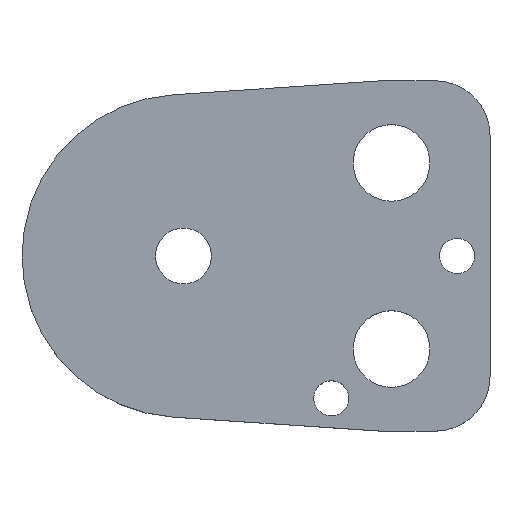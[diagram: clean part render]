
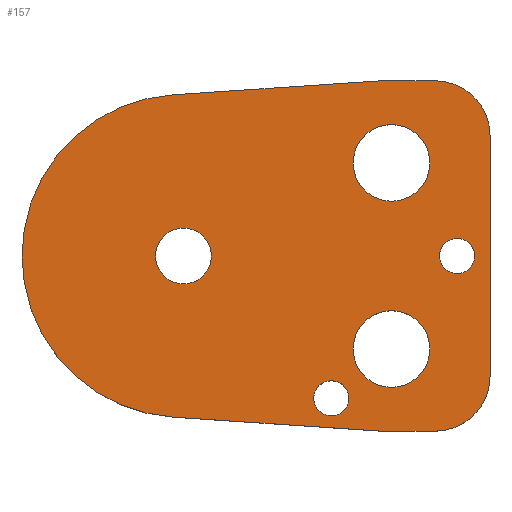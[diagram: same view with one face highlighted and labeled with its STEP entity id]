
A CAD part, top view. The second image highlights one B-rep face of the part: STEP entity #157.
In plain terms, the highlighted planar face has unit normal (0, 0, 1).
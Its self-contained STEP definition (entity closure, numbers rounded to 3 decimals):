
#103=FACE_BOUND('',#207,.T.);
#104=FACE_BOUND('',#208,.T.);
#105=FACE_BOUND('',#209,.T.);
#106=FACE_BOUND('',#210,.T.);
#107=FACE_BOUND('',#211,.T.);
#108=FACE_BOUND('',#212,.T.);
#122=CIRCLE('',#480,10.);
#124=CIRCLE('',#484,10.);
#127=CIRCLE('',#490,29.5);
#138=CIRCLE('',#503,3.2);
#139=CIRCLE('',#504,3.2);
#140=CIRCLE('',#505,7.);
#141=CIRCLE('',#506,7.);
#142=CIRCLE('',#507,7.);
#143=CIRCLE('',#508,7.);
#144=CIRCLE('',#509,3.2);
#145=CIRCLE('',#510,3.2);
#146=CIRCLE('',#511,5.1);
#147=CIRCLE('',#512,5.1);
#157=ADVANCED_FACE('',(#103,#104,#105,#106,#107,#108),#174,.T.);
#174=PLANE('',#513);
#207=EDGE_LOOP('',(#273,#274,#275,#276,#277,#278,#279,#280));
#208=EDGE_LOOP('',(#281,#282));
#209=EDGE_LOOP('',(#283,#284));
#210=EDGE_LOOP('',(#285,#286));
#211=EDGE_LOOP('',(#287,#288));
#212=EDGE_LOOP('',(#289,#290));
#273=ORIENTED_EDGE('',*,*,#368,.T.);
#274=ORIENTED_EDGE('',*,*,#372,.T.);
#275=ORIENTED_EDGE('',*,*,#375,.T.);
#276=ORIENTED_EDGE('',*,*,#378,.T.);
#277=ORIENTED_EDGE('',*,*,#381,.T.);
#278=ORIENTED_EDGE('',*,*,#384,.T.);
#279=ORIENTED_EDGE('',*,*,#387,.T.);
#280=ORIENTED_EDGE('',*,*,#390,.T.);
#281=ORIENTED_EDGE('',*,*,#401,.T.);
#282=ORIENTED_EDGE('',*,*,#402,.T.);
#283=ORIENTED_EDGE('',*,*,#403,.T.);
#284=ORIENTED_EDGE('',*,*,#404,.T.);
#285=ORIENTED_EDGE('',*,*,#405,.T.);
#286=ORIENTED_EDGE('',*,*,#406,.T.);
#287=ORIENTED_EDGE('',*,*,#407,.T.);
#288=ORIENTED_EDGE('',*,*,#408,.T.);
#289=ORIENTED_EDGE('',*,*,#409,.T.);
#290=ORIENTED_EDGE('',*,*,#410,.T.);
#332=VERTEX_POINT('',#649);
#333=VERTEX_POINT('',#651);
#336=VERTEX_POINT('',#658);
#338=VERTEX_POINT('',#664);
#340=VERTEX_POINT('',#670);
#342=VERTEX_POINT('',#676);
#344=VERTEX_POINT('',#682);
#346=VERTEX_POINT('',#688);
#357=VERTEX_POINT('',#717);
#358=VERTEX_POINT('',#718);
#359=VERTEX_POINT('',#721);
#360=VERTEX_POINT('',#722);
#361=VERTEX_POINT('',#725);
#362=VERTEX_POINT('',#726);
#363=VERTEX_POINT('',#729);
#364=VERTEX_POINT('',#730);
#365=VERTEX_POINT('',#733);
#366=VERTEX_POINT('',#734);
#368=EDGE_CURVE('',#333,#332,#422,.T.);
#372=EDGE_CURVE('',#332,#336,#426,.T.);
#375=EDGE_CURVE('',#336,#338,#122,.T.);
#378=EDGE_CURVE('',#338,#340,#430,.T.);
#381=EDGE_CURVE('',#340,#342,#124,.T.);
#384=EDGE_CURVE('',#342,#344,#434,.T.);
#387=EDGE_CURVE('',#344,#346,#437,.T.);
#390=EDGE_CURVE('',#346,#333,#127,.T.);
#401=EDGE_CURVE('',#357,#358,#138,.T.);
#402=EDGE_CURVE('',#358,#357,#139,.T.);
#403=EDGE_CURVE('',#359,#360,#140,.T.);
#404=EDGE_CURVE('',#360,#359,#141,.T.);
#405=EDGE_CURVE('',#361,#362,#142,.T.);
#406=EDGE_CURVE('',#362,#361,#143,.T.);
#407=EDGE_CURVE('',#363,#364,#144,.T.);
#408=EDGE_CURVE('',#364,#363,#145,.T.);
#409=EDGE_CURVE('',#365,#366,#146,.T.);
#410=EDGE_CURVE('',#366,#365,#147,.T.);
#422=LINE('',#650,#450);
#426=LINE('',#659,#454);
#430=LINE('',#671,#458);
#434=LINE('',#683,#462);
#437=LINE('',#689,#465);
#450=VECTOR('',#527,1.);
#454=VECTOR('',#533,1.);
#458=VECTOR('',#545,1.);
#462=VECTOR('',#557,1.);
#465=VECTOR('',#562,1.);
#480=AXIS2_PLACEMENT_3D('',#665,#538,#539);
#484=AXIS2_PLACEMENT_3D('',#677,#550,#551);
#490=AXIS2_PLACEMENT_3D('',#693,#568,#569);
#503=AXIS2_PLACEMENT_3D('',#716,#594,#595);
#504=AXIS2_PLACEMENT_3D('',#719,#596,#597);
#505=AXIS2_PLACEMENT_3D('',#720,#598,#599);
#506=AXIS2_PLACEMENT_3D('',#723,#600,#601);
#507=AXIS2_PLACEMENT_3D('',#724,#602,#603);
#508=AXIS2_PLACEMENT_3D('',#727,#604,#605);
#509=AXIS2_PLACEMENT_3D('',#728,#606,#607);
#510=AXIS2_PLACEMENT_3D('',#731,#608,#609);
#511=AXIS2_PLACEMENT_3D('',#732,#610,#611);
#512=AXIS2_PLACEMENT_3D('',#735,#612,#613);
#513=AXIS2_PLACEMENT_3D('',#736,#614,#615);
#527=DIRECTION('',(0.998,-0.067,0.));
#533=DIRECTION('',(1.,0.,0.));
#538=DIRECTION('',(0.,0.,1.));
#539=DIRECTION('',(-0.707,0.707,0.));
#545=DIRECTION('',(0.,1.,0.));
#550=DIRECTION('',(0.,0.,1.));
#551=DIRECTION('',(-0.707,-0.707,0.));
#557=DIRECTION('',(-1.,0.,0.));
#562=DIRECTION('',(-0.998,-0.067,0.));
#568=DIRECTION('',(0.,0.,1.));
#569=DIRECTION('',(1.,0.,0.));
#594=DIRECTION('',(0.,0.,-1.));
#595=DIRECTION('',(-1.,0.,0.));
#596=DIRECTION('',(0.,0.,-1.));
#597=DIRECTION('',(1.,0.,0.));
#598=DIRECTION('',(0.,0.,-1.));
#599=DIRECTION('',(-1.,0.,0.));
#600=DIRECTION('',(0.,0.,-1.));
#601=DIRECTION('',(1.,0.,0.));
#602=DIRECTION('',(0.,0.,-1.));
#603=DIRECTION('',(-1.,0.,0.));
#604=DIRECTION('',(0.,0.,-1.));
#605=DIRECTION('',(1.,0.,0.));
#606=DIRECTION('',(0.,0.,-1.));
#607=DIRECTION('',(-1.,0.,0.));
#608=DIRECTION('',(0.,0.,-1.));
#609=DIRECTION('',(1.,0.,0.));
#610=DIRECTION('',(0.,0.,-1.));
#611=DIRECTION('',(-1.,0.,0.));
#612=DIRECTION('',(0.,0.,-1.));
#613=DIRECTION('',(1.,0.,0.));
#614=DIRECTION('',(0.,0.,1.));
#615=DIRECTION('',(0.998,-0.067,0.));
#649=CARTESIAN_POINT('',(36.,-32.,9.));
#650=CARTESIAN_POINT('',(36.,-32.,9.));
#651=CARTESIAN_POINT('',(-1.989,-29.433,9.));
#658=CARTESIAN_POINT('',(46.,-32.,9.));
#659=CARTESIAN_POINT('',(36.,-32.,9.));
#664=CARTESIAN_POINT('',(56.,-22.,9.));
#665=CARTESIAN_POINT('',(46.,-22.,9.));
#670=CARTESIAN_POINT('',(56.,22.,9.));
#671=CARTESIAN_POINT('',(56.,22.,9.));
#676=CARTESIAN_POINT('',(46.,32.,9.));
#677=CARTESIAN_POINT('',(46.,22.,9.));
#682=CARTESIAN_POINT('',(36.,32.,9.));
#683=CARTESIAN_POINT('',(36.,32.,9.));
#688=CARTESIAN_POINT('',(-1.989,29.433,9.));
#689=CARTESIAN_POINT('',(36.,32.,9.));
#693=CARTESIAN_POINT('',(0.,0.,9.));
#716=CARTESIAN_POINT('',(50.,0.,9.));
#717=CARTESIAN_POINT('',(50.,3.2,9.));
#718=CARTESIAN_POINT('',(50.,-3.2,9.));
#719=CARTESIAN_POINT('',(50.,0.,9.));
#720=CARTESIAN_POINT('',(38.,17.,9.));
#721=CARTESIAN_POINT('',(38.,24.,9.));
#722=CARTESIAN_POINT('',(38.,10.,9.));
#723=CARTESIAN_POINT('',(38.,17.,9.));
#724=CARTESIAN_POINT('',(38.,-17.,9.));
#725=CARTESIAN_POINT('',(38.,-10.,9.));
#726=CARTESIAN_POINT('',(38.,-24.,9.));
#727=CARTESIAN_POINT('',(38.,-17.,9.));
#728=CARTESIAN_POINT('',(27.,-26.,9.));
#729=CARTESIAN_POINT('',(27.,-22.8,9.));
#730=CARTESIAN_POINT('',(27.,-29.2,9.));
#731=CARTESIAN_POINT('',(27.,-26.,9.));
#732=CARTESIAN_POINT('',(0.,0.,9.));
#733=CARTESIAN_POINT('',(0.,5.1,9.));
#734=CARTESIAN_POINT('',(0.,-5.1,9.));
#735=CARTESIAN_POINT('',(0.,0.,9.));
#736=CARTESIAN_POINT('',(-1.989,-29.433,9.));
